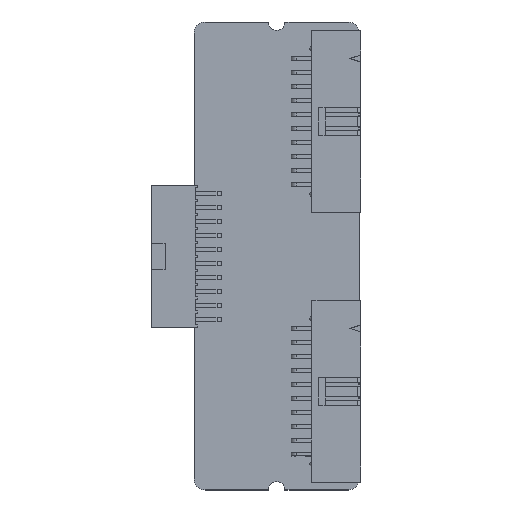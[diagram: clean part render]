
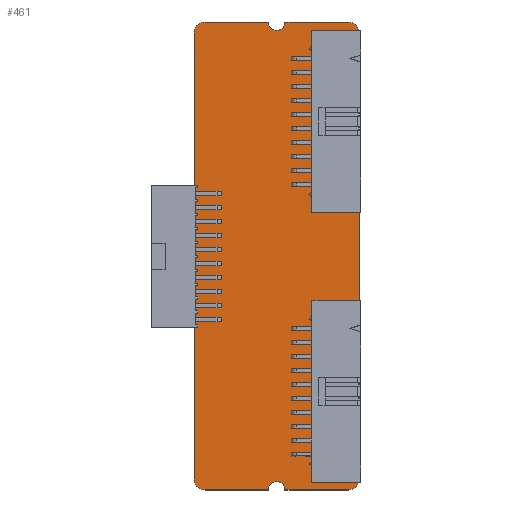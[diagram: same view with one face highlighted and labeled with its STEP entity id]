
A CAD part, top view. The second image highlights one B-rep face of the part: STEP entity #461.
In plain terms, the highlighted planar face has unit normal (0, 0, 1).
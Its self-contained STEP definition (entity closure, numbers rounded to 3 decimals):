
#64 = VERTEX_POINT('',#65);
#65 = CARTESIAN_POINT('',(0.,2.,1.617));
#71 = EDGE_CURVE('',#64,#72,#74,.T.);
#72 = VERTEX_POINT('',#73);
#73 = CARTESIAN_POINT('',(0.,83.,1.617));
#74 = LINE('',#75,#76);
#75 = CARTESIAN_POINT('',(0.,2.,1.617));
#76 = VECTOR('',#77,1.);
#77 = DIRECTION('',(0.,1.,0.));
#102 = EDGE_CURVE('',#72,#103,#105,.T.);
#103 = VERTEX_POINT('',#104);
#104 = CARTESIAN_POINT('',(2.,85.,1.617));
#105 = CIRCLE('',#106,2.001);
#106 = AXIS2_PLACEMENT_3D('',#107,#108,#109);
#107 = CARTESIAN_POINT('',(2.001,82.999,1.617));
#108 = DIRECTION('',(0.,0.,-1.));
#109 = DIRECTION('',(-1.,0.,0.));
#135 = EDGE_CURVE('',#103,#136,#138,.T.);
#136 = VERTEX_POINT('',#137);
#137 = CARTESIAN_POINT('',(13.5,85.,1.617));
#138 = LINE('',#139,#140);
#139 = CARTESIAN_POINT('',(2.,85.,1.617));
#140 = VECTOR('',#141,1.);
#141 = DIRECTION('',(1.,0.,0.));
#166 = EDGE_CURVE('',#136,#167,#169,.T.);
#167 = VERTEX_POINT('',#168);
#168 = CARTESIAN_POINT('',(16.5,85.,1.617));
#169 = CIRCLE('',#170,1.5);
#170 = AXIS2_PLACEMENT_3D('',#171,#172,#173);
#171 = CARTESIAN_POINT('',(15.,85.,1.617));
#172 = DIRECTION('',(0.,0.,1.));
#173 = DIRECTION('',(-1.,0.,-0.));
#199 = EDGE_CURVE('',#167,#200,#202,.T.);
#200 = VERTEX_POINT('',#201);
#201 = CARTESIAN_POINT('',(28.,85.,1.617));
#202 = LINE('',#203,#204);
#203 = CARTESIAN_POINT('',(16.5,85.,1.617));
#204 = VECTOR('',#205,1.);
#205 = DIRECTION('',(1.,0.,0.));
#230 = EDGE_CURVE('',#200,#231,#233,.T.);
#231 = VERTEX_POINT('',#232);
#232 = CARTESIAN_POINT('',(30.,83.,1.617));
#233 = CIRCLE('',#234,2.001);
#234 = AXIS2_PLACEMENT_3D('',#235,#236,#237);
#235 = CARTESIAN_POINT('',(27.999,82.999,1.617));
#236 = DIRECTION('',(0.,0.,-1.));
#237 = DIRECTION('',(0.,1.,0.));
#263 = EDGE_CURVE('',#231,#264,#266,.T.);
#264 = VERTEX_POINT('',#265);
#265 = CARTESIAN_POINT('',(30.,2.,1.617));
#266 = LINE('',#267,#268);
#267 = CARTESIAN_POINT('',(30.,83.,1.617));
#268 = VECTOR('',#269,1.);
#269 = DIRECTION('',(0.,-1.,0.));
#294 = EDGE_CURVE('',#264,#295,#297,.T.);
#295 = VERTEX_POINT('',#296);
#296 = CARTESIAN_POINT('',(28.,0.,1.617));
#297 = CIRCLE('',#298,2.001);
#298 = AXIS2_PLACEMENT_3D('',#299,#300,#301);
#299 = CARTESIAN_POINT('',(27.999,2.001,1.617));
#300 = DIRECTION('',(0.,0.,-1.));
#301 = DIRECTION('',(1.,0.,0.));
#327 = EDGE_CURVE('',#295,#328,#330,.T.);
#328 = VERTEX_POINT('',#329);
#329 = CARTESIAN_POINT('',(16.5,0.,1.617));
#330 = LINE('',#331,#332);
#331 = CARTESIAN_POINT('',(28.,0.,1.617));
#332 = VECTOR('',#333,1.);
#333 = DIRECTION('',(-1.,0.,0.));
#358 = EDGE_CURVE('',#328,#359,#361,.T.);
#359 = VERTEX_POINT('',#360);
#360 = CARTESIAN_POINT('',(13.5,0.,1.617));
#361 = CIRCLE('',#362,1.5);
#362 = AXIS2_PLACEMENT_3D('',#363,#364,#365);
#363 = CARTESIAN_POINT('',(15.,0.,1.617));
#364 = DIRECTION('',(0.,0.,1.));
#365 = DIRECTION('',(1.,0.,-0.));
#391 = EDGE_CURVE('',#359,#392,#394,.T.);
#392 = VERTEX_POINT('',#393);
#393 = CARTESIAN_POINT('',(2.,0.,1.617));
#394 = LINE('',#395,#396);
#395 = CARTESIAN_POINT('',(13.5,0.,1.617));
#396 = VECTOR('',#397,1.);
#397 = DIRECTION('',(-1.,0.,0.));
#422 = EDGE_CURVE('',#392,#64,#423,.T.);
#423 = CIRCLE('',#424,2.001);
#424 = AXIS2_PLACEMENT_3D('',#425,#426,#427);
#425 = CARTESIAN_POINT('',(2.001,2.001,1.617));
#426 = DIRECTION('',(0.,0.,-1.));
#427 = DIRECTION('',(0.,-1.,-0.));
#461 = ADVANCED_FACE('',(#462),#476,.F.);
#462 = FACE_BOUND('',#463,.F.);
#463 = EDGE_LOOP('',(#464,#465,#466,#467,#468,#469,#470,#471,#472,#473,
    #474,#475));
#464 = ORIENTED_EDGE('',*,*,#71,.T.);
#465 = ORIENTED_EDGE('',*,*,#102,.T.);
#466 = ORIENTED_EDGE('',*,*,#135,.T.);
#467 = ORIENTED_EDGE('',*,*,#166,.T.);
#468 = ORIENTED_EDGE('',*,*,#199,.T.);
#469 = ORIENTED_EDGE('',*,*,#230,.T.);
#470 = ORIENTED_EDGE('',*,*,#263,.T.);
#471 = ORIENTED_EDGE('',*,*,#294,.T.);
#472 = ORIENTED_EDGE('',*,*,#327,.T.);
#473 = ORIENTED_EDGE('',*,*,#358,.T.);
#474 = ORIENTED_EDGE('',*,*,#391,.T.);
#475 = ORIENTED_EDGE('',*,*,#422,.T.);
#476 = PLANE('',#477);
#477 = AXIS2_PLACEMENT_3D('',#478,#479,#480);
#478 = CARTESIAN_POINT('',(15.,42.5,1.617));
#479 = DIRECTION('',(-0.,-0.,-1.));
#480 = DIRECTION('',(-1.,0.,0.));
